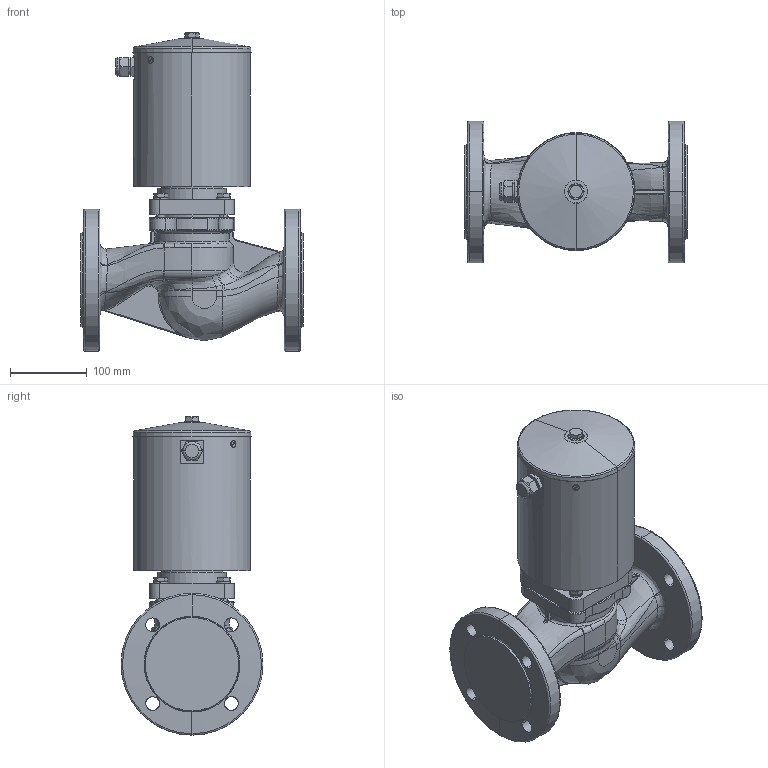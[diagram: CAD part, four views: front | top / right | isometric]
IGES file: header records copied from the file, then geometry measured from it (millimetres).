
Global section: file name: No Iges File Name specified; native system: AutoDesk Inventor R12.0; preprocessor: AutoDesk Inventor Iges Exporter R12.0; date: 20110408.101818; units: millimetre
Bounding box: 290 x 185 x 414.9 mm (x, y, z)
Volume: 6884461.3 mm3; surface area: 391569.8 mm2
Topology: 1 solids, 1 shells, 494 faces, 1192 edges, 719 vertices
Faces by surface type: bspline 176, plane 122, cylinder 75, cone 58, revolution 35, torus 28
